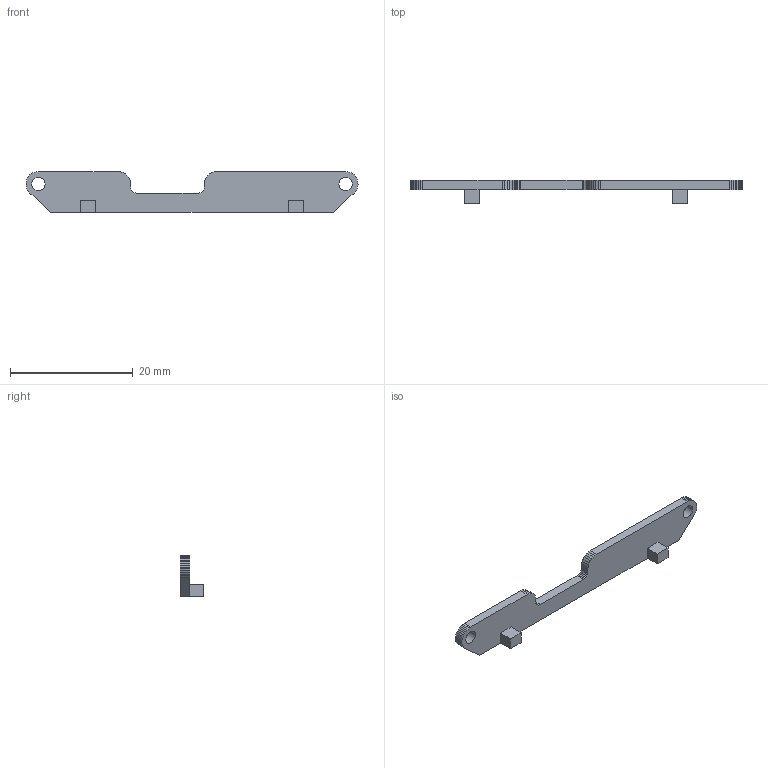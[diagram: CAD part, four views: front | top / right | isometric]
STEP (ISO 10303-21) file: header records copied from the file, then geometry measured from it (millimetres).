
FILE_DESCRIPTION(('FreeCAD Model'),'2;1');
FILE_NAME('Open CASCADE Shape Model','2026-09-09T20:58:29',('Author'),( ''),'Open CASCADE STEP processor 7.8','FreeCAD','Unknown');
FILE_SCHEMA(('AUTOMOTIVE_DESIGN { 1 0 10303 214 1 1 1 1 }'));
Length unit declared in the file: millimetre
Products named in the file (1): microduck-banana-pcb-locker
Bounding box: 54.02 x 3.8 x 6.63 mm (x, y, z)
Volume: 457.9 mm3; surface area: 820.9 mm2
Topology: 1 solids, 1 shells, 82 faces, 234 edges, 156 vertices
Faces by surface type: plane 80, cylinder 2
Full cylindrical faces by diameter (mm): 2.174 x2
Entity records: 2640 total; most frequent: CARTESIAN_POINT 473, ORIENTED_EDGE 468, DIRECTION 404, EDGE_CURVE 234, LINE 230, VECTOR 230, VERTEX_POINT 156, FACE_BOUND 88
